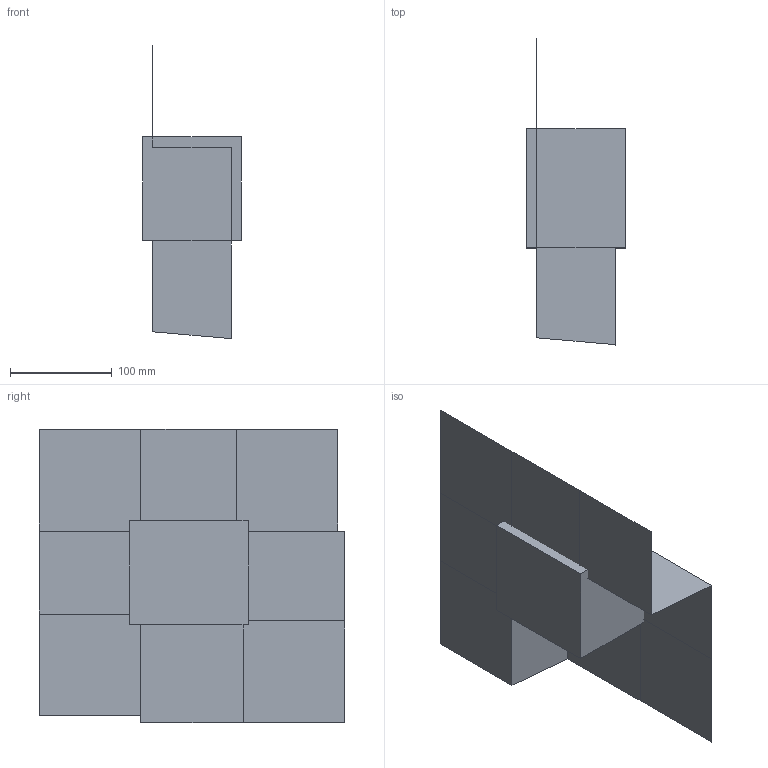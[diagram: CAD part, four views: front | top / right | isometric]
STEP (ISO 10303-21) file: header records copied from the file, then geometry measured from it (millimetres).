
FILE_DESCRIPTION(('CATIA V5 STEP Exchange'),'2;1');
FILE_NAME('C:\_Andres\UNIVERSIDAD\IQS\ASIGNATURAS\DAO\EXF\EXF-15161c\1original\Ferrer_Costa_Ej02-moldes_v7.stp','2016-03-04T15:45:34+00:00',('none'),('none'),'CATIA Version 5 Release 20 SP 1 (IN-10)','CATIA V5 STEP AP203','none');
FILE_SCHEMA(('CONFIG_CONTROL_DESIGN'));
Length unit declared in the file: millimetre
Products named in the file (1): Ferrer_Costa_Ej02-moldes_v7
Bounding box: 97 x 300.39 x 288.39 mm (x, y, z)
Volume: 2460939.7 mm3; surface area: 313931.1 mm2
Topology: 3 solids, 7 shells, 45 faces, 118 edges, 83 vertices
Faces by surface type: plane 41, cylinder 4
Entity records: 1101 total; most frequent: ORIENTED_EDGE 198, CARTESIAN_POINT 179, DIRECTION 147, EDGE_CURVE 83, VECTOR 73, LINE 73, VERTEX_POINT 56, EDGE_LOOP 49
